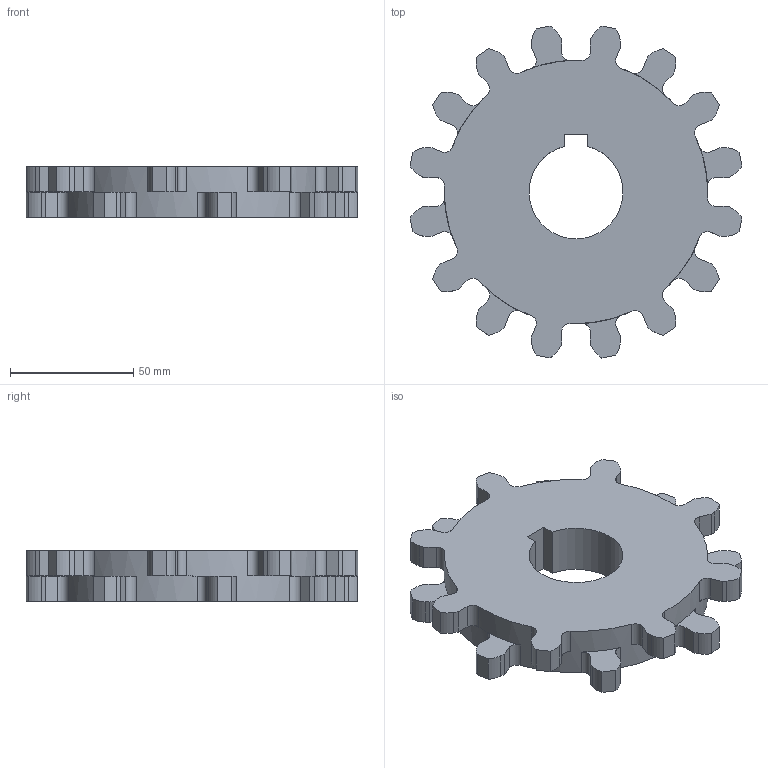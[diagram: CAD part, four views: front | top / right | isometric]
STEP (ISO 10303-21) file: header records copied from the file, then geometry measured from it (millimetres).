
FILE_DESCRIPTION((''),'2;1');
FILE_NAME('S2600_SPROCKET_52_RND','2008-12-12T',('jmumphre'),(''),'PRO/ENGINEER BY PARAMETRIC TECHNOLOGY CORPORATION, 2008150','PRO/ENGINEER BY PARAMETRIC TECHNOLOGY CORPORATION, 2008150','');
FILE_SCHEMA(('CONFIG_CONTROL_DESIGN'));
Length unit declared in the file: inch
Products named in the file (1): S2600_SPROCKET_52_RND
Bounding box: 134.6 x 134.6 x 20.45 mm (x, y, z)
Volume: 185085.3 mm3; surface area: 34257.2 mm2
Topology: 1 solids, 1 shells, 168 faces, 498 edges, 332 vertices
Faces by surface type: plane 101, cylinder 67
Entity records: 5712 total; most frequent: DIRECTION 1000, CARTESIAN_POINT 998, ORIENTED_EDGE 996, EDGE_CURVE 498, AXIS2_PLACEMENT_3D 334, VECTOR 332, LINE 332, VERTEX_POINT 332
